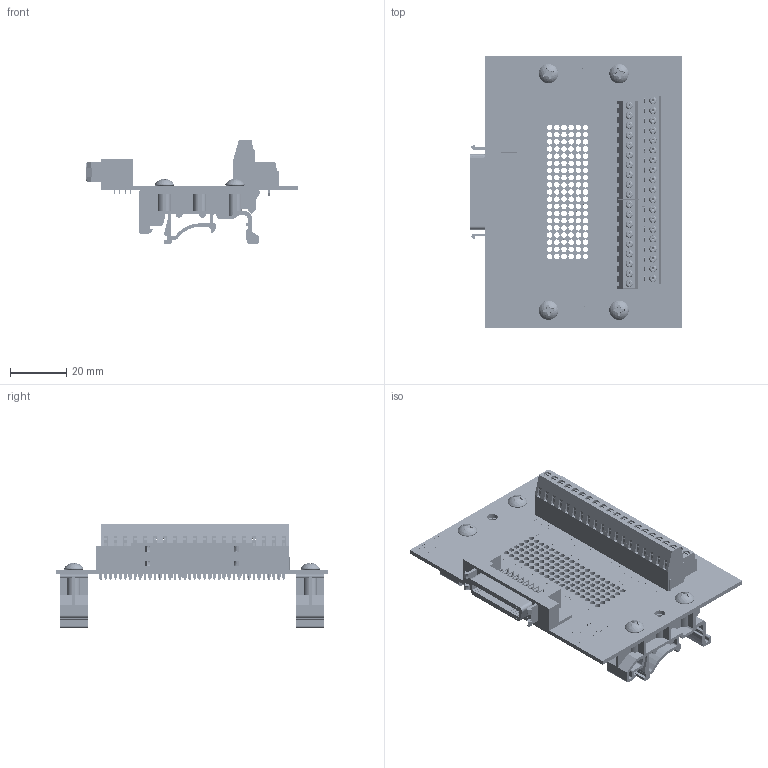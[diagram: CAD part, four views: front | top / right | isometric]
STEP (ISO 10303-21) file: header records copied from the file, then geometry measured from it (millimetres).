
FILE_DESCRIPTION (( 'STEP AP214' ), '1' );
FILE_NAME ('brkddm36f-r-din_rev_a.stp', '2018-07-03T02:51:00', ( '' ), ( '' ), 'SwSTEP 2.0', 'SolidWorks 2017', '' );
FILE_SCHEMA (( 'AUTOMOTIVE_DESIGN' ));
Length unit declared in the file: inch
Products named in the file (7): Screw Terminal Double Decker 6; brkddm36f-r-din_rev_a; MDR36 Right Angle; Screw Terminal Double Decker 4; dinm01; BRKDDM36F Board; Screw_SCSMPP-6-0.375_90184A127
Assembly tree (15 placements, depth 2):
  brkddm36f-r-din_rev_a
    BRKDDM36F Board
    dinm01  x2
    MDR36 Right Angle
    Screw Terminal Double Decker 4  x2
    Screw Terminal Double Decker 6  x5
    Screw_SCSMPP-6-0.375_90184A127  x4
Bounding box: 75.31 x 96.52 x 36.77 mm (x, y, z)
Volume: 26126.6 mm3; surface area: 50037.8 mm2
Topology: 101 solids, 101 shells, 10585 faces, 28469 edges, 18388 vertices
Faces by surface type: plane 6037, cylinder 2325, bspline 1697, torus 346, cone 176, sphere 4
Full cylindrical faces by diameter (mm): 0.127 x2, 0.635 x15, 0.711 x36, 1.092 x38, 1.35 x38, 1.6 x38, 1.9 x38, 1.93 x114, 2 x228, 2.583 x38, 2.68 x38, 2.75 x6, 2.794 x2, 3.81 x6
Entity records: 288613 total; most frequent: CARTESIAN_POINT 116209, ORIENTED_EDGE 26750, DIRECTION 20014, EDGE_CURVE 13375, LINE 8992, VECTOR 8992, VERTEX_POINT 8965, EDGE_LOOP 6300
